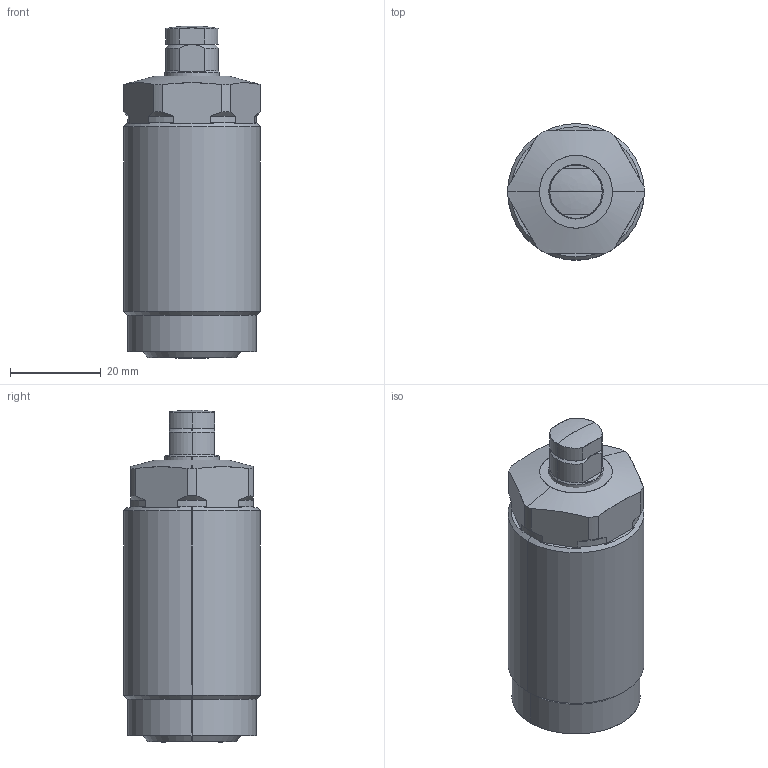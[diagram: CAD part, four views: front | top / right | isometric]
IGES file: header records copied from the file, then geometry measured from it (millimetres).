
Start section: SolidWorks IGES file using analytic representation for surfaces
Global section: file name: C:\Documents and Settings\nijil\My Documents\Clasys1\LD Series\30\0201-0201.IGS; native system: SolidWorks 2010; preprocessor: SolidWorks 2010; author: nijil; date: 130723.104505; units: millimetre
Bounding box: 30 x 30 x 73 mm (x, y, z)
Surface area: 7750.3 mm2 (no closed solid volume)
Topology: 0 solids, 0 shells, 83 faces, 1003 edges, 1002 vertices
Faces by surface type: revolution 53, bspline 30
